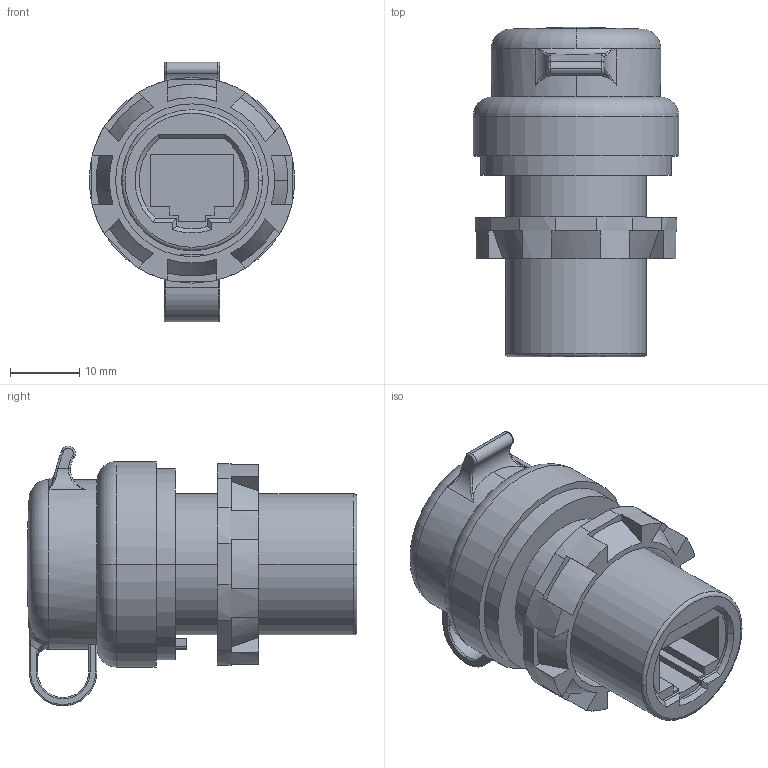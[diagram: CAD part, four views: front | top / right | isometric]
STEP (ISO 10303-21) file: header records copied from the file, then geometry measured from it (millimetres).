
FILE_DESCRIPTION (( 'STEP AP214' ), '1' );
FILE_NAME ('ZF_STEP_E2_xRJ45xxAK_A13.STEP', '2014-03-10T10:03:38', ( 'utente' ), ( 'Microsoft' ), 'SwSTEP 2.0', 'SolidWorks 2013', '' );
FILE_SCHEMA (( 'AUTOMOTIVE_DESIGN' ));
Length unit declared in the file: millimetre
Products named in the file (4): ZF_STEP_E2_cappuccio USB-RJ45; ZF_STEP_VE_GF121A_A10_21008; ZF_STEP_E2 1RJ45xxAK; ZF_STEP_E2_xRJ45xxAK_A13
Assembly tree (3 placements, depth 2):
  ZF_STEP_E2_xRJ45xxAK_A13
    ZF_STEP_E2 1RJ45xxAK
    ZF_STEP_VE_GF121A_A10_21008
    ZF_STEP_E2_cappuccio USB-RJ45
Bounding box: 29.6 x 47.45 x 37.38 mm (x, y, z)
Volume: 18943.2 mm3; surface area: 9853.4 mm2
Topology: 3 solids, 3 shells, 203 faces, 525 edges, 332 vertices
Faces by surface type: plane 98, cylinder 46, torus 24, cone 18, bspline 15, sphere 2
Entity records: 7341 total; most frequent: CARTESIAN_POINT 2060, ORIENTED_EDGE 1046, DIRECTION 1027, EDGE_CURVE 523, AXIS2_PLACEMENT_3D 387, VERTEX_POINT 332, LINE 253, VECTOR 253
